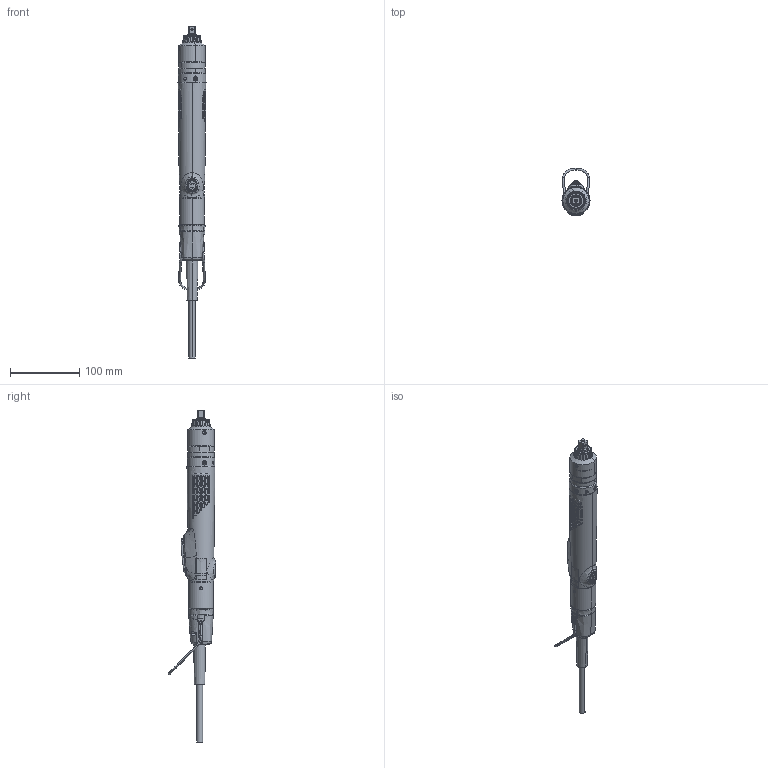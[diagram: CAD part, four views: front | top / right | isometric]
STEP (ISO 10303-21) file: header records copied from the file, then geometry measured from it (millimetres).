
FILE_DESCRIPTION((''),'2;1');
FILE_NAME('6151659160','2015-12-03T',('greextsd'),(''),'CREO PARAMETRIC BY PTC INC, 2015200','CREO PARAMETRIC BY PTC INC, 2015200','');
FILE_SCHEMA(('CONFIG_CONTROL_DESIGN'));
Length unit declared in the file: millimetre
Products named in the file (1): 6151659160
Bounding box: 40.4 x 68.94 x 479 mm (x, y, z)
Volume: 157958.8 mm3; surface area: 112284.2 mm2
Topology: 5 solids, 7 shells, 3909 faces, 10352 edges, 6595 vertices
Faces by surface type: plane 1890, cylinder 778, bspline 511, cone 338, torus 167, revolution 141, sphere 45, extrusion 39
Entity records: 164533 total; most frequent: CARTESIAN_POINT 77833, ORIENTED_EDGE 20610, DIRECTION 14012, EDGE_CURVE 10305, VERTEX_POINT 6595, AXIS2_PLACEMENT_3D 5196, B_SPLINE_CURVE_WITH_KNOTS 5067, EDGE_LOOP 4176
